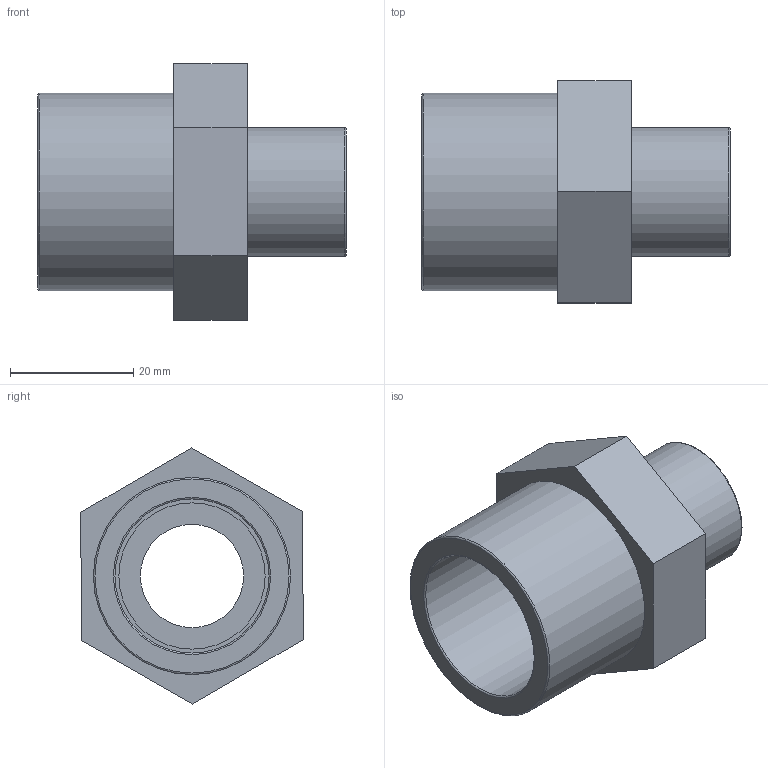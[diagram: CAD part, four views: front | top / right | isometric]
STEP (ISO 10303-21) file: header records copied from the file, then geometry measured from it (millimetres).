
FILE_DESCRIPTION(/* description */ ('PLASSON BUSHING ADAP. THR-CEM 25(32)-1/2"'),/* implementation_level */ '2;1');
FILE_NAME(/* name */ 'C:\Dropbox\KIMPROJECTS-Inventor\99-16-3568-Processing\PVC Catalog 2017\052202\052202025005.ipt.stp',/* time_stamp */ '2017-12-07T16:02:32+02:00',/* author */ ('KIM'),/* organization */ (''),/* preprocessor_version */ 'ST-DEVELOPER v15.6',/* originating_system */ 'Autodesk Inventor 2015',/* authorisation */ '');
FILE_SCHEMA (('AUTOMOTIVE_DESIGN { 1 0 10303 214 3 1 1 }'));
Length unit declared in the file: millimetre
Products named in the file (1): 052202025005
Bounding box: 50 x 36.08 x 41.57 mm (x, y, z)
Volume: 17883.9 mm3; surface area: 9916.7 mm2
Topology: 1 solids, 1 shells, 21 faces, 41 edges, 26 vertices
Faces by surface type: plane 12, cylinder 5, torus 4
Full cylindrical faces by diameter (mm): 16.764 x1, 20.955 x1, 23.75 x1, 25 x1, 32 x1
Entity records: 520 total; most frequent: DIRECTION 90, CARTESIAN_POINT 80, ORIENTED_EDGE 64, EDGE_LOOP 36, AXIS2_PLACEMENT_3D 36, EDGE_CURVE 32, VERTEX_POINT 26, FACE_OUTER_BOUND 21
